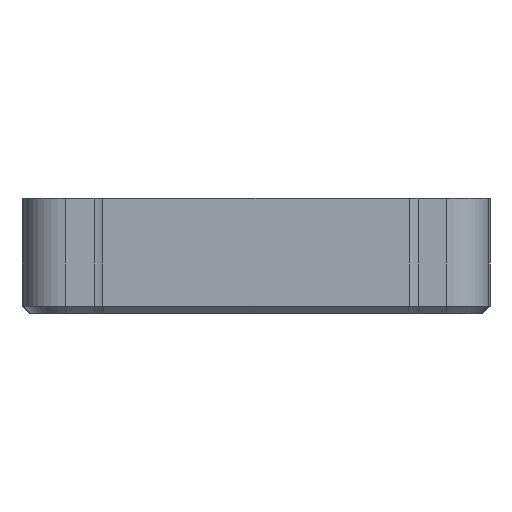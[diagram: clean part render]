
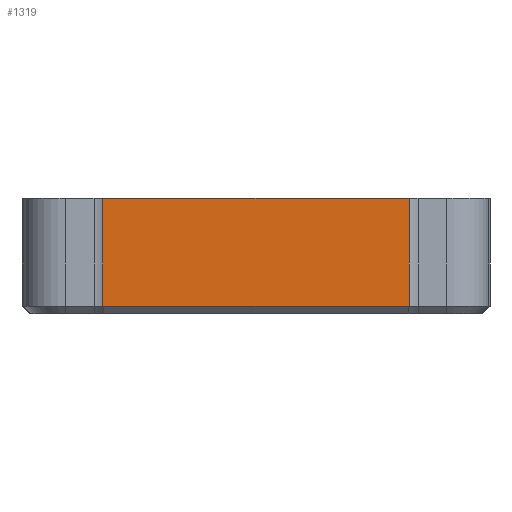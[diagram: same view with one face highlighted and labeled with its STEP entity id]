
A CAD part, front view. The second image highlights one B-rep face of the part: STEP entity #1319.
In plain terms, the highlighted planar face has unit normal (0, -1, 0).
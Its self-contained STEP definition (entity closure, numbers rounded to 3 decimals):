
#6 = VECTOR ( 'NONE', #149, 1000. ) ;
#27 = CARTESIAN_POINT ( 'NONE',  ( -42.502, -65., 32. ) ) ;
#52 = DIRECTION ( 'NONE',  ( 1., 0., 0. ) ) ;
#55 = EDGE_LOOP ( 'NONE', ( #312, #910, #1669, #240 ) ) ;
#142 = CARTESIAN_POINT ( 'NONE',  ( 42.502, -65., 32. ) ) ;
#149 = DIRECTION ( 'NONE',  ( 1., 0., 0. ) ) ;
#240 = ORIENTED_EDGE ( 'NONE', *, *, #601, .F. ) ;
#312 = ORIENTED_EDGE ( 'NONE', *, *, #1695, .T. ) ;
#330 = DIRECTION ( 'NONE',  ( 0., 1., 0. ) ) ;
#367 = CARTESIAN_POINT ( 'NONE',  ( -42.502, -65., 32. ) ) ;
#496 = CARTESIAN_POINT ( 'NONE',  ( 42.502, -65., 32. ) ) ;
#526 = DIRECTION ( 'NONE',  ( 0., 0., -1. ) ) ;
#580 = PLANE ( 'NONE',  #1679 ) ;
#601 = EDGE_CURVE ( 'NONE', #1363, #1469, #1449, .T. ) ;
#617 = CARTESIAN_POINT ( 'NONE',  ( 42.502, -65., 2. ) ) ;
#717 = CARTESIAN_POINT ( 'NONE',  ( -42.502, -65., 32. ) ) ;
#795 = EDGE_CURVE ( 'NONE', #1552, #1143, #868, .T. ) ;
#838 = LINE ( 'NONE', #142, #1017 ) ;
#868 = LINE ( 'NONE', #1463, #6 ) ;
#910 = ORIENTED_EDGE ( 'NONE', *, *, #795, .T. ) ;
#1017 = VECTOR ( 'NONE', #526, 1000. ) ;
#1141 = CARTESIAN_POINT ( 'NONE',  ( -42.502, -65., 2. ) ) ;
#1143 = VERTEX_POINT ( 'NONE', #617 ) ;
#1165 = DIRECTION ( 'NONE',  ( 1., 0., 0. ) ) ;
#1191 = VECTOR ( 'NONE', #1165, 1000. ) ;
#1214 = LINE ( 'NONE', #27, #1703 ) ;
#1319 = ADVANCED_FACE ( 'NONE', ( #1518 ), #580, .F. ) ;
#1363 = VERTEX_POINT ( 'NONE', #1503 ) ;
#1449 = LINE ( 'NONE', #367, #1191 ) ;
#1463 = CARTESIAN_POINT ( 'NONE',  ( 42.502, -65., 2. ) ) ;
#1469 = VERTEX_POINT ( 'NONE', #496 ) ;
#1503 = CARTESIAN_POINT ( 'NONE',  ( -42.502, -65., 32. ) ) ;
#1518 = FACE_OUTER_BOUND ( 'NONE', #55, .T. ) ;
#1552 = VERTEX_POINT ( 'NONE', #1141 ) ;
#1618 = DIRECTION ( 'NONE',  ( 0., 0., -1. ) ) ;
#1654 = EDGE_CURVE ( 'NONE', #1469, #1143, #838, .T. ) ;
#1669 = ORIENTED_EDGE ( 'NONE', *, *, #1654, .F. ) ;
#1679 = AXIS2_PLACEMENT_3D ( 'NONE', #717, #330, #52 ) ;
#1695 = EDGE_CURVE ( 'NONE', #1363, #1552, #1214, .T. ) ;
#1703 = VECTOR ( 'NONE', #1618, 1000. ) ;
